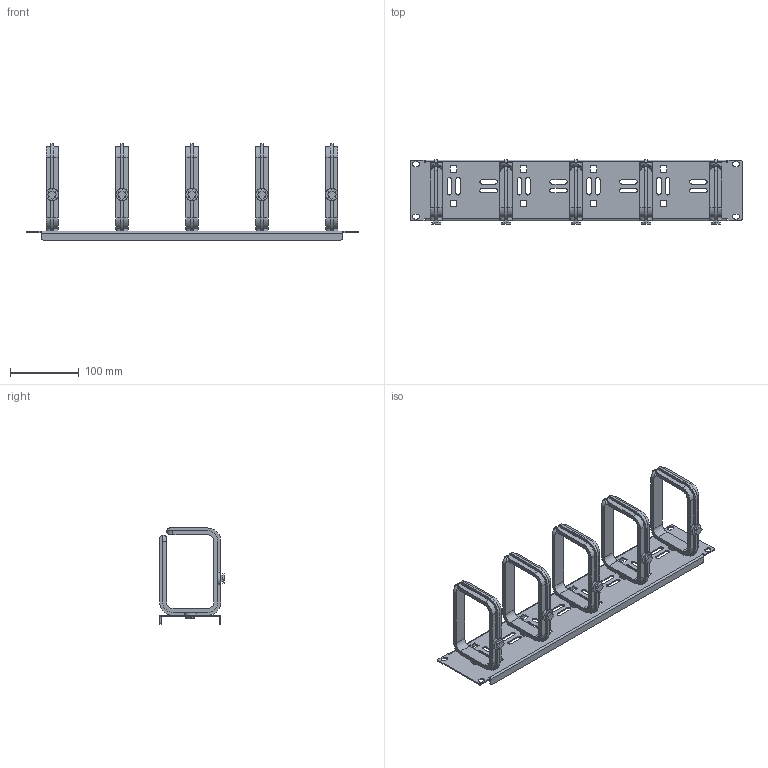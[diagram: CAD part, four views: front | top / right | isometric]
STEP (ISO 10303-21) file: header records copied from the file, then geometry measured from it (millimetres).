
FILE_DESCRIPTION(/* description */ ('2 RMU x 19" EIA CABLE MANAGER WITH (5) PLASTIC CABLE RINGS'),/* implementation_level */ '2;1');
FILE_NAME(/* name */ 'C:\GL-Vault\Inventor\I022XXX\I022498\I022498 8-16-19.stp',/* time_stamp */ '2019-08-16T15:49:28-04:00',/* author */ ('BillS'),/* organization */ ('GLCC'),/* preprocessor_version */ 'ST-DEVELOPER v17',/* originating_system */ 'Autodesk Inventor 2018',/* authorisation */ '');
FILE_SCHEMA (('AUTOMOTIVE_DESIGN { 1 0 10303 214 3 1 1 }'));
Length unit declared in the file: inch
Products named in the file (3): CM04X200; CM04X100; VP-145
Assembly tree (6 placements, depth 2):
  CM04X200
    CM04X100
    VP-145  x5
Bounding box: 482.6 x 93.99 x 139.71 mm (x, y, z)
Volume: 311777 mm3; surface area: 202631.4 mm2
Topology: 6 solids, 6 shells, 604 faces, 1645 edges, 1063 vertices
Faces by surface type: plane 448, cylinder 156
Full cylindrical faces by diameter (mm): 18.009 x10
Entity records: 8665 total; most frequent: CARTESIAN_POINT 1554, ORIENTED_EDGE 1458, DIRECTION 1424, EDGE_CURVE 729, LINE 558, VECTOR 558, VERTEX_POINT 475, AXIS2_PLACEMENT_3D 433
